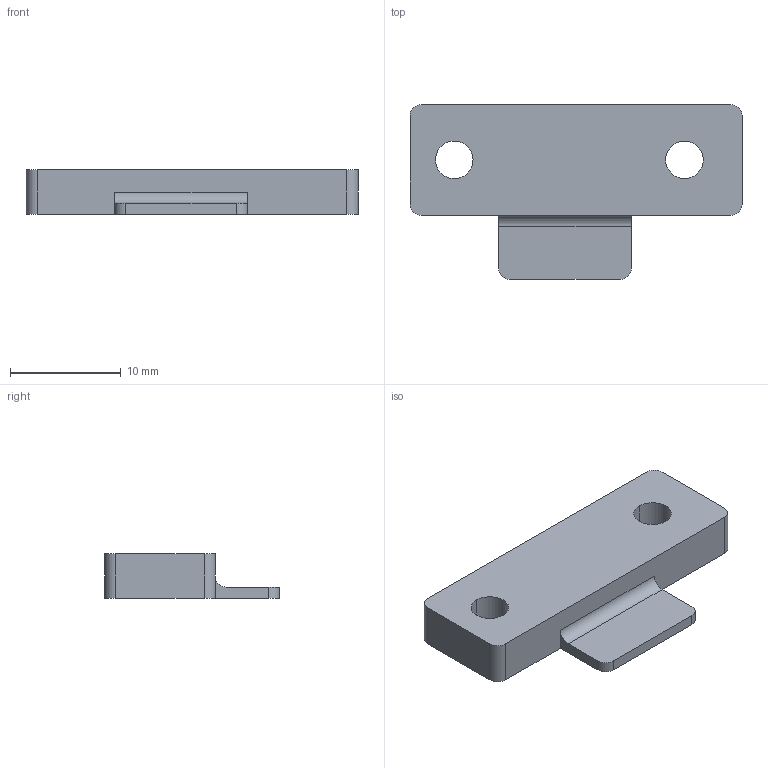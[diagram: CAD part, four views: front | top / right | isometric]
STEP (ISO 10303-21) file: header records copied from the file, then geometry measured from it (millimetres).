
FILE_DESCRIPTION((''),'2;1');
FILE_NAME('22_000_9990001_1_LLL','2024-10-21T08:49:35',('Administrator'),(''),'CREO PARAMETRIC BY PTC INC, 2024063','CREO PARAMETRIC BY PTC INC, 2024063','');
FILE_SCHEMA(('CONFIG_CONTROL_DESIGN'));
Length unit declared in the file: millimetre
Products named in the file (1): 22_000_9990001_1_LLL
Bounding box: 30 x 15.8 x 4 mm (x, y, z)
Volume: 1195.7 mm3; surface area: 1104.9 mm2
Topology: 1 solids, 1 shells, 21 faces, 57 edges, 38 vertices
Faces by surface type: cylinder 11, plane 10
Entity records: 719 total; most frequent: DIRECTION 121, CARTESIAN_POINT 116, ORIENTED_EDGE 114, EDGE_CURVE 57, AXIS2_PLACEMENT_3D 43, VERTEX_POINT 38, VECTOR 35, LINE 35
